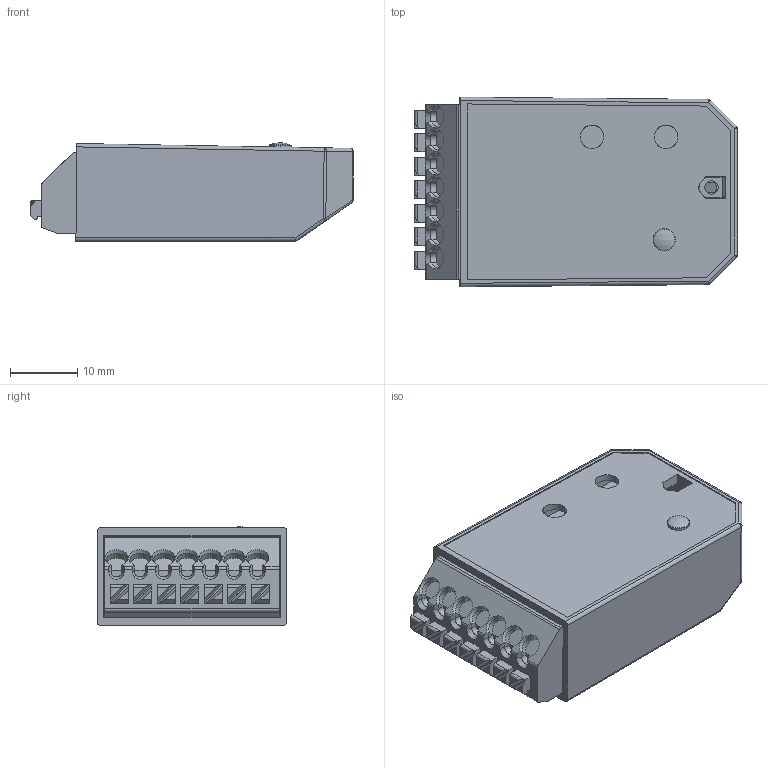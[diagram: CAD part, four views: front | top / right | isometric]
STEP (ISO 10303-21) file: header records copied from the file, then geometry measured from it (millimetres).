
FILE_DESCRIPTION((''),'2;1');
FILE_NAME('15013792Z_DMEC48X28-2X14-6_2877','2020-02-26T13:52:39',('juergen.hrach'),(''),'CREO PARAMETRIC BY PTC INC, 2019164','CREO PARAMETRIC BY PTC INC, 2019164','');
FILE_SCHEMA(('CONFIG_CONTROL_DESIGN'));
Length unit declared in the file: millimetre
Products named in the file (1): 15013792Z_DMEC48X28-2X14-6_2877
Bounding box: 48.08 x 28.2 x 14.67 mm (x, y, z)
Volume: 8410.2 mm3; surface area: 10267.9 mm2
Topology: 1 solids, 1 shells, 420 faces, 1199 edges, 782 vertices
Faces by surface type: plane 305, cylinder 87, cone 16, sphere 10, torus 2
Entity records: 13753 total; most frequent: CARTESIAN_POINT 2779, ORIENTED_EDGE 2380, DIRECTION 2126, EDGE_CURVE 1190, VECTOR 938, LINE 938, VERTEX_POINT 782, AXIS2_PLACEMENT_3D 594
